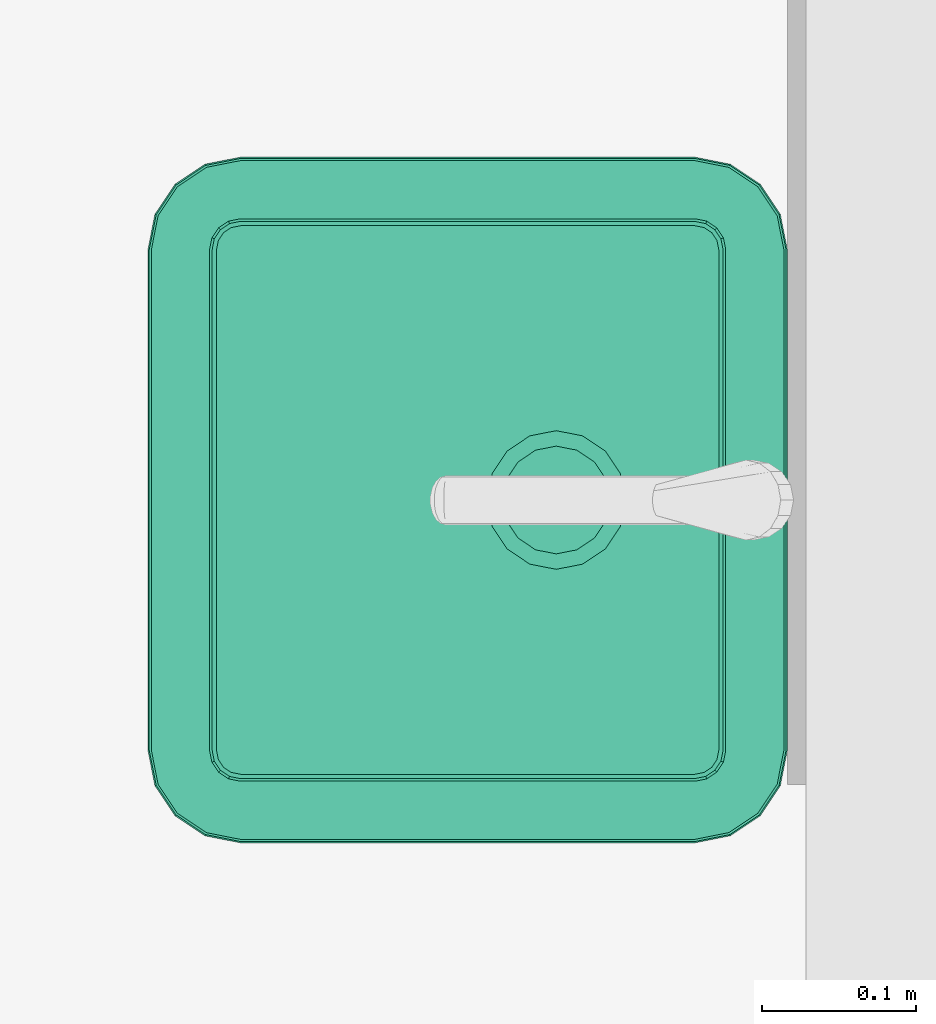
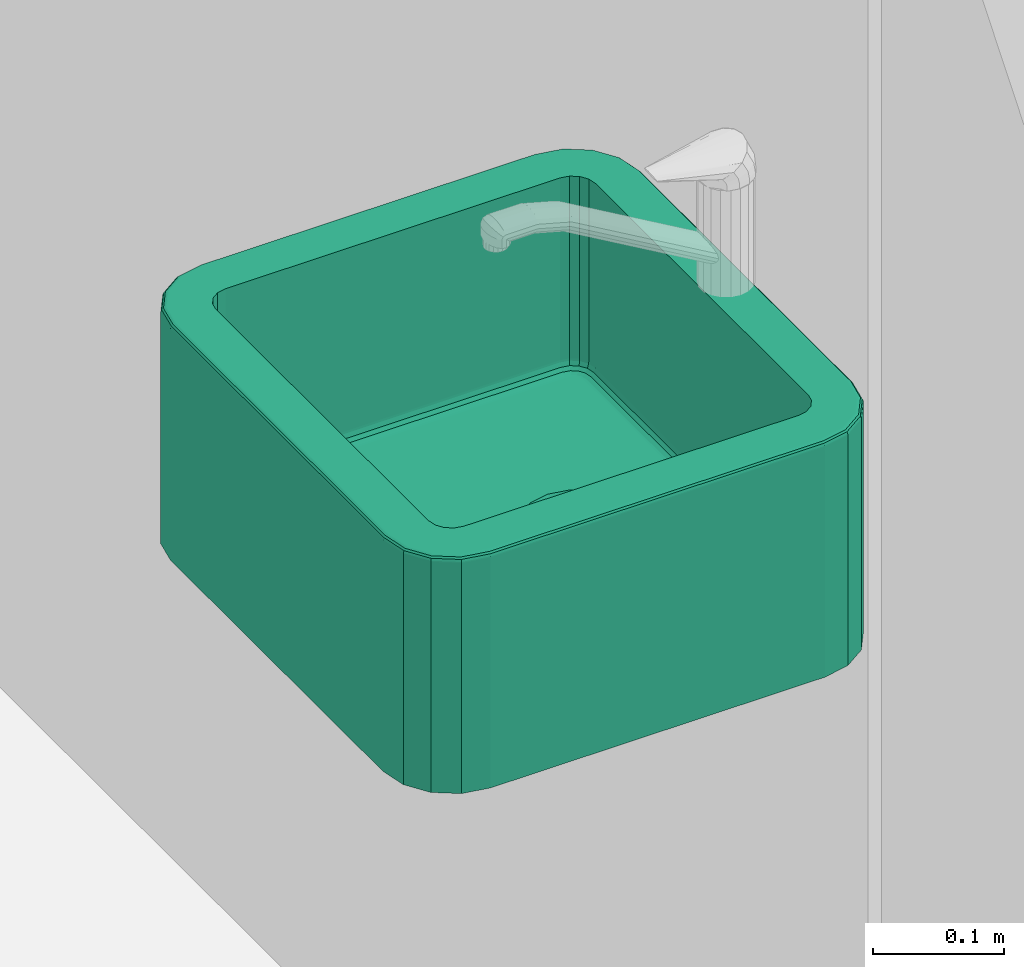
# One storey, part 115 of 194: 1 flow terminal.
"""IFC2X3 building model written with IfcOpenShell, lengths in millimetres."""

from ifc_helpers import new_model, entity, si_unit, converted_unit, derived_unit, money_unit, direction, frame, origin_with_axes, place, context, subcontext, project, spatial, faceted_brep, source, transform, mapped, type_object, element, save


model = new_model("IFC2X3")

# Units and contexts
model_context = context("Model", 3, precision=1e-05, world=origin_with_axes(), true_north=direction((0.0, 1.0)))
body_context = subcontext(model_context, "Body", "Model", "MODEL_VIEW")
ifc_project = project(units=[si_unit("LENGTHUNIT", "METRE", prefix="MILLI"), si_unit("AREAUNIT", "SQUARE_METRE"), si_unit("VOLUMEUNIT", "CUBIC_METRE"), converted_unit("PLANEANGLEUNIT", "DEGREE", entity("IfcPlaneAngleMeasure", 0.0174532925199), si_unit("PLANEANGLEUNIT", "RADIAN"), dimensions=[0, 0, 0, 0, 0, 0, 0]), si_unit("SOLIDANGLEUNIT", "STERADIAN"), money_unit("EUR"), converted_unit("TIMEUNIT", "Year", entity("IfcTimeMeasure", 31556926.0), si_unit("TIMEUNIT", "SECOND"), dimensions=[0, 0, 1, 0, 0, 0, 0]), si_unit("MASSUNIT", "GRAM", prefix="KILO"), si_unit("THERMODYNAMICTEMPERATUREUNIT", "DEGREE_CELSIUS"), si_unit("LUMINOUSINTENSITYUNIT", "LUMEN"), si_unit("ENERGYUNIT", "JOULE", prefix="MEGA"), derived_unit("THERMALCONDUCTANCEUNIT", [(si_unit("POWERUNIT", "WATT"), 1), (si_unit("LENGTHUNIT", "METRE"), -1), (si_unit("THERMODYNAMICTEMPERATUREUNIT", "KELVIN"), -1)]), derived_unit("SPECIFICHEATCAPACITYUNIT", [(si_unit("ENERGYUNIT", "JOULE"), 1), (si_unit("MASSUNIT", "GRAM", prefix="KILO"), -1), (si_unit("THERMODYNAMICTEMPERATUREUNIT", "KELVIN"), -1)]), derived_unit("MASSDENSITYUNIT", [(si_unit("MASSUNIT", "GRAM", prefix="KILO"), 1), (si_unit("VOLUMEUNIT", "CUBIC_METRE"), -1)])], contexts=[model_context])

# Site, building, storey
site_placement = place(None, origin_with_axes())
site = spatial("IfcSite", under=ifc_project, at=site_placement, Name="Site", CompositionType="ELEMENT")
building_placement = place(site_placement, origin_with_axes())
building = spatial("IfcBuilding", under=site, at=building_placement, Name="Building", CompositionType="ELEMENT")
storey_placement = place(building_placement, frame((0.0, 0.0, 3000.0), z_axis=(0.0, 0.0, 1.0), x_axis=(1.0, 0.0, 0.0)))
storey = spatial("IfcBuildingStorey", under=building, at=storey_placement, Name="2 KORRUS", CompositionType="ELEMENT", Elevation=3000.0)

# Flow terminal
sanitary_terminal_type = type_object("IfcSanitaryTerminalType", Name="Sink Belfast 22", PredefinedType="NOTDEFINED")
shared_shape = source(origin_with_axes(), body_context, "Body", "Brep", [
    faceted_brep([(-21.1783900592, 393.821609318, 899.999999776), (-38.9898958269, 405.72287775, 899.999999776), (-60.4924568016, 410.000002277, 899.999999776), (-222.499999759, 410.000002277, 899.999999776), (-384.507543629, 410.000002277, 899.999999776), (-406.010103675, 405.722877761, 899.999999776), (-423.82160946, 393.821609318, 899.999999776), (-435.72287713, 376.010103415, 899.999999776), (-440.000002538, 354.50754327, 899.999999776), (-440.000002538, 60.4924569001, 899.999999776), (-435.722877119, 38.9898958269, 899.999999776), (-423.821609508, 21.1783900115, 899.999999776), (-406.010103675, 9.27712238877, 899.999999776), (-384.507543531, 4.99999698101, 899.999999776), (-60.4924569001, 4.99999698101, 899.999999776), (-38.9898958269, 9.27712239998, 899.999999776), (-21.1783900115, 21.1783900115, 899.999999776), (-9.27712239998, 38.9898958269, 899.999999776), (-4.99999698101, 60.4924569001, 899.999999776), (-4.99999698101, 354.50754327, 899.999999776), (-9.27712238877, 376.010103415, 899.999999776), (-399.142135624, 369.142135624, 900.0), (-392.653668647, 373.47759065, 900.0), (-385.0, 375.0, 900.0), (-222.5, 375.0, 900.0), (-60.0, 375.0, 900.0), (-52.3463313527, 373.47759065, 900.0), (-45.8578643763, 369.142135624, 900.0), (-41.5224093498, 362.653668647, 900.0), (-40.0, 355.0, 900.0), (-40.0, 60.0, 900.0), (-41.5224093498, 52.3463313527, 900.0), (-45.8578643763, 45.8578643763, 900.0), (-52.3463313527, 41.5224093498, 900.0), (-60.0, 40.0, 900.0), (-385.0, 40.0, 900.0), (-392.653668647, 41.5224093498, 900.0), (-399.142135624, 45.8578643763, 900.0), (-403.47759065, 52.3463313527, 900.0), (-405.0, 60.0, 900.0), (-405.0, 355.0, 900.0), (-403.47759065, 362.653668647, 900.0), (-20.4751302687, 394.524869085, 899.903926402), (-38.6092943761, 406.641730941, 899.903926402), (-60.3963834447, 410.975451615, 899.903926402), (-222.499999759, 410.975451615, 899.903926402), (-384.60361699, 410.975451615, 899.903926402), (-406.390705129, 406.64173095, 899.903926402), (-424.52486925, 394.524869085, 899.903926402), (-436.641730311, 376.390704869, 899.903926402), (-440.975451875, 354.60361665, 899.903926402), (-440.975451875, 60.396383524, 899.903926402), (-436.641730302, 38.6092943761, 899.903926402), (-424.524869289, 20.4751302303, 899.903926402), (-406.390705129, 8.3582692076, 899.903926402), (-384.603616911, 4.02454764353, 899.903926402), (-60.396383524, 4.02454764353, 899.903926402), (-38.6092943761, 8.35826921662, 899.903926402), (-20.4751302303, 20.4751302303, 899.903926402), (-8.35826921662, 38.6092943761, 899.903926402), (-4.02454764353, 60.396383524, 899.903926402), (-4.02454764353, 354.60361665, 899.903926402), (-8.3582692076, 376.390704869, 899.903926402), (-399.142135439, 369.142135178, 730.0), (-392.653668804, 373.477590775, 730.0), (-385.000000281, 374.999999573, 730.0), (-222.499999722, 374.999999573, 730.0), (-60.0000000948, 374.999999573, 730.0), (-52.3463315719, 373.477590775, 730.0), (-45.8578640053, 369.142135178, 730.0), (-41.5224093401, 362.653668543, 730.0), (-39.9999996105, 355.00000002, 730.0), (-39.9999996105, 60.0000000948, 730.0), (-41.5224093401, 52.3463315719, 730.0), (-45.8578640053, 45.8578640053, 730.0), (-52.3463315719, 41.5224093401, 730.0), (-60.0000000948, 39.9999996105, 730.0), (-385.000000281, 39.9999996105, 730.0), (-392.653668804, 41.5224093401, 730.0), (-399.142135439, 45.8578640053, 730.0), (-403.477591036, 52.3463315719, 730.0), (-404.999999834, 60.0000000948, 730.0), (-404.999999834, 355.00000002, 730.0), (-403.477591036, 362.653668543, 730.0), (-19.175673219, 395.824326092, 899.157348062), (-37.9060332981, 408.339553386, 899.157348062), (-60.2188627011, 412.777850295, 899.157348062), (-222.499999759, 412.777850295, 899.157348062), (-384.781137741, 412.777850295, 899.157348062), (-407.093966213, 408.339553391, 899.157348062), (-425.8243263, 395.824326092, 899.157348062), (-438.339552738, 377.093965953, 899.157348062), (-442.777850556, 354.781137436, 899.157348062), (-442.777850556, 60.2188627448, 899.157348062), (-438.339552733, 37.9060332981, 899.157348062), (-425.824326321, 19.1756731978, 899.157348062), (-407.093966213, 6.66044678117, 899.157348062), (-384.781137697, 2.22214896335, 899.157348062), (-60.2188627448, 2.22214896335, 899.157348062), (-37.9060332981, 6.66044678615, 899.157348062), (-19.1756731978, 19.1756731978, 899.157348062), (-6.66044678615, 37.9060332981, 899.157348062), (-2.22214896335, 60.2188627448, 899.157348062), (-2.22214896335, 354.781137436, 899.157348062), (-6.66044678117, 377.093965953, 899.157348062), (-399.003605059, 369.003604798, 728.04909678), (-392.578696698, 373.296592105, 728.04909678), (-384.981075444, 374.807852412, 728.04909678), (-222.499999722, 374.807852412, 728.04909678), (-60.0189249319, 374.807852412, 728.04909678), (-52.4213036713, 373.296592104, 728.04909678), (-45.9963943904, 369.003604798, 728.04909678), (-41.7034080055, 362.578696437, 728.04909678), (-40.1921467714, 354.981075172, 728.04909678), (-40.1921467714, 60.0189249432, 728.04909678), (-41.7034080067, 52.4213036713, 728.04909678), (-45.9963943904, 45.9963943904, 728.04909678), (-52.4213036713, 41.7034080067, 728.04909678), (-60.0189249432, 40.1921467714, 728.04909678), (-384.981075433, 40.1921467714, 728.04909678), (-392.578696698, 41.7034080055, 728.04909678), (-399.003605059, 45.9963943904, 728.04909678), (-403.296592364, 52.4213036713, 728.04909678), (-404.807852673, 60.0189249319, 728.04909678), (-404.807852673, 354.981075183, 728.04909678), (-403.296592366, 362.578696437, 728.04909678), (-18.1811110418, 396.818888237, 897.777851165), (-37.3677801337, 409.639011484, 897.777851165), (-60.0829940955, 414.157347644, 897.777851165), (-222.499999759, 414.157347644, 897.777851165), (-384.917006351, 414.157347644, 897.777851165), (-407.632219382, 409.639011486, 897.777851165), (-426.818888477, 396.818888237, 897.777851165), (-439.639010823, 377.632219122, 897.777851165), (-444.157347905, 354.917006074, 897.777851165), (-444.157347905, 60.0829941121, 897.777851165), (-439.639010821, 37.3677801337, 897.777851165), (-426.818888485, 18.1811110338, 897.777851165), (-407.632219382, 5.36098869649, 897.777851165), (-384.917006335, 0.842651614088, 897.777851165), (-60.0829941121, 0.842651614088, 897.777851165), (-37.3677801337, 5.36098869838, 897.777851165), (-18.1811110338, 18.1811110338, 897.777851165), (-5.36098869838, 37.3677801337, 897.777851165), (-0.842651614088, 60.0829941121, 897.777851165), (-0.842651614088, 354.917006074, 897.777851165), (-5.36098869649, 377.632219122, 897.777851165), (-397.927098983, 367.927098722, 724.44429767), (-391.996095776, 371.890069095, 724.44429767), (-384.834012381, 373.314695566, 724.44429767), (-222.499999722, 373.314695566, 724.44429767), (-60.1659879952, 373.314695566, 724.44429767), (-53.0039045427, 371.890069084, 724.44429767), (-47.0729005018, 367.927098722, 724.44429767), (-43.1099309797, 361.996095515, 724.44429767), (-41.6853036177, 354.83401202, 724.44429767), (-41.6853036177, 60.1659880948, 724.44429767), (-43.1099309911, 53.0039045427, 724.44429767), (-47.0729005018, 47.0729005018, 724.44429767), (-53.0039045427, 43.1099309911, 724.44429767), (-60.1659880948, 41.6853036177, 724.44429767), (-384.834012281, 41.6853036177, 724.44429767), (-391.996095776, 43.1099309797, 724.44429767), (-397.927098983, 47.0729005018, 724.44429767), (-401.890069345, 53.0039045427, 724.44429767), (-403.314695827, 60.1659879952, 724.44429767), (-403.314695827, 354.83401212, 724.44429767), (-401.890069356, 361.996095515, 724.44429767), (-17.6428579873, 397.357141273, 895.97545161), (-37.0764796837, 410.342272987, 895.97545161), (-60.0094625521, 414.903926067, 895.97545161), (-222.499999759, 414.903926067, 895.97545161), (-384.990537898, 414.903926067, 895.97545161), (-407.923519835, 410.342272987, 895.97545161), (-427.357141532, 397.357141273, 895.97545161), (-440.342272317, 377.923519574, 895.97545161), (-444.903926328, 354.990537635, 895.97545161), (-444.903926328, 60.009462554, 895.97545161), (-440.342272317, 37.0764796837, 895.97545161), (-427.357141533, 17.6428579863, 895.97545161), (-407.923519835, 4.65772720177, 895.97545161), (-384.990537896, 0.0960731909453, 895.97545161), (-60.009462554, 0.0960731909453, 895.97545161), (-37.0764796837, 4.65772720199, 895.97545161), (-17.6428579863, 17.6428579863, 895.97545161), (-4.65772720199, 37.0764796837, 895.97545161), (-0.0960731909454, 60.009462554, 895.97545161), (-0.0960731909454, 354.990537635, 895.97545161), (-4.65772720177, 377.923519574, 895.97545161), (-395.937975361, 365.9379751, 721.685303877), (-390.919589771, 369.291153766, 721.685303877), (-384.562275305, 370.555701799, 721.685303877), (-222.499999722, 370.555701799, 721.685303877), (-60.437725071, 370.555701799, 721.685303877), (-54.0804104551, 369.291153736, 721.685303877), (-49.062024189, 365.9379751, 721.685303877), (-45.7088462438, 360.91958951, 721.685303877), (-44.4442973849, 354.562274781, 721.685303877), (-44.4442973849, 60.4377253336, 721.685303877), (-45.7088462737, 54.0804104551, 721.685303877), (-49.062024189, 49.062024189, 721.685303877), (-54.0804104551, 45.7088462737, 721.685303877), (-60.4377253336, 44.4442973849, 721.685303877), (-384.562275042, 44.4442973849, 721.685303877), (-390.919589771, 45.7088462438, 721.685303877), (-395.937975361, 49.062024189, 721.685303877), (-399.291153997, 54.0804104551, 721.685303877), (-400.55570206, 60.437725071, 721.685303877), (-400.55570206, 354.562275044, 721.685303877), (-399.291154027, 360.91958951, 721.685303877), (-17.5735927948, 397.426406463, 895.0), (-37.0389936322, 410.432772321, 895.0), (-60.000000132, 414.999999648, 895.0), (-222.499999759, 414.999999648, 895.0), (-385.000000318, 414.999999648, 895.0), (-407.961005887, 410.432772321, 895.0), (-427.426406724, 397.426406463, 895.0), (-440.432771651, 377.961005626, 895.0), (-444.999999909, 355.000000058, 895.0), (-444.999999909, 60.000000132, 895.0), (-440.432771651, 37.0389936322, 895.0), (-427.426406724, 17.5735927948, 895.0), (-407.961005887, 4.56722786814, 895.0), (-385.000000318, -3.89516419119e-07, 895.0), (-60.000000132, -3.89516419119e-07, 895.0), (-37.0389936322, 4.56722786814, 895.0), (-17.5735927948, 17.5735927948, 895.0), (-4.56722786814, 37.0389936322, 895.0), (3.89516363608e-07, 60.000000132, 895.0), (3.89516363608e-07, 355.000000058, 895.0), (-4.56722786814, 377.961005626, 895.0), (-393.339059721, 363.33905946, 720.192147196), (-389.513066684, 365.895506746, 720.192147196), (-384.207233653, 366.95090219, 720.192147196), (-222.499999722, 366.95090219, 720.192147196), (-60.7927667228, 366.95090219, 720.192147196), (-55.4869334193, 365.895506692, 720.192147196), (-51.6609399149, 363.33905946, 720.192147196), (-49.104493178, 359.513066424, 720.192147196), (-48.0490969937, 354.207232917, 720.192147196), (-48.0490969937, 60.7927671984, 720.192147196), (-49.1044932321, 55.4869334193, 720.192147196), (-51.6609399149, 51.6609399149, 720.192147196), (-55.4869334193, 49.1044932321, 720.192147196), (-60.7927671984, 48.0490969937, 720.192147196), (-384.207233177, 48.0490969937, 720.192147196), (-389.513066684, 49.104493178, 720.192147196), (-393.339059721, 51.6609399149, 720.192147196), (-395.895506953, 55.4869334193, 720.192147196), (-396.950902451, 60.7927667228, 720.192147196), (-396.950902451, 354.207233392, 720.192147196), (-395.895507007, 359.513066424, 720.192147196), (-17.5735931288, 397.426406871, 680.0), (-37.0389940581, 410.432771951, 680.0), (-60.0, 415.0, 680.0), (-222.5, 415.0, 680.0), (-385.0, 415.0, 680.0), (-407.961005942, 410.432771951, 680.0), (-427.426406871, 397.426406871, 680.0), (-440.432771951, 377.961005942, 680.0), (-445.0, 355.0, 680.0), (-445.0, 60.0, 680.0), (-440.432771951, 37.0389940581, 680.0), (-427.426406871, 17.5735931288, 680.0), (-407.961005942, 4.56722804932, 680.0), (-385.0, 0.0, 680.0), (-60.0, 0.0, 680.0), (-37.0389940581, 4.56722804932, 680.0), (-17.5735931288, 17.5735931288, 680.0), (-4.56722804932, 37.0389940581, 680.0), (0.0, 60.0, 680.0), (0.0, 355.0, 680.0), (-4.56722804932, 377.961005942, 680.0), (-391.932540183, 361.932539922, 720.000000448), (-388.751863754, 364.057800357, 720.000000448), (-384.01508697, 365.000003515, 720.000000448), (-222.499999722, 365.000003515, 720.000000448), (-60.9849134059, 365.000003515, 720.000000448), (-56.2481362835, 364.05780029, 720.000000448), (-53.0674594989, 361.932539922, 720.000000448), (-50.9421995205, 358.751863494, 720.000000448), (-49.9999956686, 354.015086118, 720.000000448), (-49.9999956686, 60.9849139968, 720.000000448), (-50.9421995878, 56.2481362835, 720.000000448), (-53.0674594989, 53.0674594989, 720.000000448), (-56.2481362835, 50.9421995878, 720.000000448), (-60.9849139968, 49.9999956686, 720.000000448), (-384.015086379, 49.9999956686, 720.000000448), (-388.751863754, 50.9421995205, 720.000000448), (-391.932540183, 53.0674594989, 720.000000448), (-394.057800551, 56.2481362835, 720.000000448), (-395.000003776, 60.9849134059, 720.000000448), (-395.000003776, 354.015086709, 720.000000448), (-394.057800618, 358.751863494, 720.000000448), (-267.5, 265.0, 720.0), (-264.074578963, 282.220754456, 720.0), (-254.319805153, 296.819805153, 720.0), (-239.720754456, 306.574578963, 720.0), (-222.5, 310.0, 720.0), (-205.279245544, 306.574578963, 720.0), (-190.680194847, 296.819805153, 720.0), (-180.925421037, 282.220754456, 720.0), (-177.5, 265.0, 720.0), (-180.925421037, 247.779245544, 720.0), (-190.680194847, 233.180194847, 720.0), (-205.279245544, 223.425421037, 720.0), (-222.5, 220.0, 720.0), (-239.720754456, 223.425421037, 720.0), (-254.319805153, 233.180194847, 720.0), (-264.074578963, 247.779245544, 720.0), (-257.5, 265.0, 710.0), (-254.835783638, 278.393920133, 710.0), (-247.248737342, 289.748737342, 710.0), (-235.893920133, 297.335783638, 710.0), (-222.5, 300.0, 710.0), (-209.106079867, 297.335783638, 710.0), (-197.751262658, 289.748737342, 710.0), (-190.164216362, 278.393920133, 710.0), (-187.5, 265.0, 710.0), (-190.164216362, 251.606079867, 710.0), (-197.751262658, 240.251262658, 710.0), (-209.106079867, 232.664216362, 710.0), (-222.5, 230.0, 710.0), (-235.893920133, 232.664216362, 710.0), (-247.248737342, 240.251262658, 710.0), (-254.835783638, 251.606079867, 710.0)], [[[0, 1, 2, 3, 4, 5, 6, 7, 8, 9, 10, 11, 12, 13, 14, 15, 16, 17, 18, 19, 20], [21, 22, 23, 24, 25, 26, 27, 28, 29, 30, 31, 32, 33, 34, 35, 36, 37, 38, 39, 40, 41]], [[1, 0, 42, 43]], [[2, 1, 43, 44]], [[3, 2, 44, 45]], [[4, 3, 45, 46]], [[5, 4, 46, 47]], [[6, 5, 47, 48]], [[7, 6, 48, 49]], [[8, 7, 49, 50]], [[9, 8, 50, 51]], [[10, 9, 51, 52]], [[11, 10, 52, 53]], [[12, 11, 53, 54]], [[13, 12, 54, 55]], [[14, 13, 55, 56]], [[15, 14, 56, 57]], [[16, 15, 57, 58]], [[17, 16, 58, 59]], [[18, 17, 59, 60]], [[19, 18, 60, 61]], [[20, 19, 61, 62]], [[0, 20, 62, 42]], [[21, 63, 64, 22]], [[22, 64, 65, 23]], [[23, 65, 66, 24]], [[24, 66, 67, 25]], [[25, 67, 68, 26]], [[26, 68, 69, 27]], [[27, 69, 70, 28]], [[28, 70, 71, 29]], [[29, 71, 72, 30]], [[30, 72, 73, 31]], [[31, 73, 74, 32]], [[32, 74, 75, 33]], [[33, 75, 76, 34]], [[34, 76, 77, 35]], [[35, 77, 78, 36]], [[36, 78, 79, 37]], [[37, 79, 80, 38]], [[38, 80, 81, 39]], [[39, 81, 82, 40]], [[40, 82, 83, 41]], [[41, 83, 63, 21]], [[43, 42, 84, 85]], [[44, 43, 85, 86]], [[45, 44, 86, 87]], [[46, 45, 87, 88]], [[47, 46, 88, 89]], [[48, 47, 89, 90]], [[49, 48, 90, 91]], [[50, 49, 91, 92]], [[51, 50, 92, 93]], [[52, 51, 93, 94]], [[53, 52, 94, 95]], [[54, 53, 95, 96]], [[55, 54, 96, 97]], [[56, 55, 97, 98]], [[57, 56, 98, 99]], [[58, 57, 99, 100]], [[59, 58, 100, 101]], [[60, 59, 101, 102]], [[61, 60, 102, 103]], [[62, 61, 103, 104]], [[42, 62, 104, 84]], [[63, 105, 106, 64]], [[64, 106, 107, 65]], [[65, 107, 108, 66]], [[66, 108, 109, 67]], [[67, 109, 110, 68]], [[68, 110, 111, 69]], [[69, 111, 112, 70]], [[70, 112, 113, 71]], [[71, 113, 114, 72]], [[72, 114, 115, 73]], [[73, 115, 116, 74]], [[74, 116, 117, 75]], [[75, 117, 118, 76]], [[76, 118, 119, 77]], [[77, 119, 120, 78]], [[78, 120, 121, 79]], [[79, 121, 122, 80]], [[80, 122, 123, 81]], [[81, 123, 124, 82]], [[82, 124, 125, 83]], [[83, 125, 105, 63]], [[85, 84, 126, 127]], [[86, 85, 127, 128]], [[87, 86, 128, 129]], [[88, 87, 129, 130]], [[89, 88, 130, 131]], [[90, 89, 131, 132]], [[91, 90, 132, 133]], [[92, 91, 133, 134]], [[93, 92, 134, 135]], [[94, 93, 135, 136]], [[95, 94, 136, 137]], [[96, 95, 137, 138]], [[97, 96, 138, 139]], [[98, 97, 139, 140]], [[99, 98, 140, 141]], [[100, 99, 141, 142]], [[101, 100, 142, 143]], [[102, 101, 143, 144]], [[103, 102, 144, 145]], [[104, 103, 145, 146]], [[84, 104, 146, 126]], [[105, 147, 148, 106]], [[106, 148, 149, 107]], [[107, 149, 150, 108]], [[108, 150, 151, 109]], [[109, 151, 152, 110]], [[110, 152, 153, 111]], [[111, 153, 154, 112]], [[112, 154, 155, 113]], [[113, 155, 156, 114]], [[114, 156, 157, 115]], [[115, 157, 158, 116]], [[116, 158, 159, 117]], [[117, 159, 160, 118]], [[118, 160, 161, 119]], [[119, 161, 162, 120]], [[120, 162, 163, 121]], [[121, 163, 164, 122]], [[122, 164, 165, 123]], [[123, 165, 166, 124]], [[124, 166, 167, 125]], [[125, 167, 147, 105]], [[127, 126, 168, 169]], [[128, 127, 169, 170]], [[129, 128, 170, 171]], [[130, 129, 171, 172]], [[131, 130, 172, 173]], [[132, 131, 173, 174]], [[133, 132, 174, 175]], [[134, 133, 175, 176]], [[135, 134, 176, 177]], [[136, 135, 177, 178]], [[137, 136, 178, 179]], [[138, 137, 179, 180]], [[139, 138, 180, 181]], [[140, 139, 181, 182]], [[141, 140, 182, 183]], [[142, 141, 183, 184]], [[143, 142, 184, 185]], [[144, 143, 185, 186]], [[145, 144, 186, 187]], [[146, 145, 187, 188]], [[126, 146, 188, 168]], [[147, 189, 190, 148]], [[148, 190, 191, 149]], [[149, 191, 192, 150]], [[150, 192, 193, 151]], [[151, 193, 194, 152]], [[152, 194, 195, 153]], [[153, 195, 196, 154]], [[154, 196, 197, 155]], [[155, 197, 198, 156]], [[156, 198, 199, 157]], [[157, 199, 200, 158]], [[158, 200, 201, 159]], [[159, 201, 202, 160]], [[160, 202, 203, 161]], [[161, 203, 204, 162]], [[162, 204, 205, 163]], [[163, 205, 206, 164]], [[164, 206, 207, 165]], [[165, 207, 208, 166]], [[166, 208, 209, 167]], [[167, 209, 189, 147]], [[169, 168, 210, 211]], [[170, 169, 211, 212]], [[171, 170, 212, 213]], [[172, 171, 213, 214]], [[173, 172, 214, 215]], [[174, 173, 215, 216]], [[175, 174, 216, 217]], [[176, 175, 217, 218]], [[177, 176, 218, 219]], [[178, 177, 219, 220]], [[179, 178, 220, 221]], [[180, 179, 221, 222]], [[181, 180, 222, 223]], [[182, 181, 223, 224]], [[183, 182, 224, 225]], [[184, 183, 225, 226]], [[185, 184, 226, 227]], [[186, 185, 227, 228]], [[187, 186, 228, 229]], [[188, 187, 229, 230]], [[168, 188, 230, 210]], [[189, 231, 232, 190]], [[190, 232, 233, 191]], [[191, 233, 234, 192]], [[192, 234, 235, 193]], [[193, 235, 236, 194]], [[194, 236, 237, 195]], [[195, 237, 238, 196]], [[196, 238, 239, 197]], [[197, 239, 240, 198]], [[198, 240, 241, 199]], [[199, 241, 242, 200]], [[200, 242, 243, 201]], [[201, 243, 244, 202]], [[202, 244, 245, 203]], [[203, 245, 246, 204]], [[204, 246, 247, 205]], [[205, 247, 248, 206]], [[206, 248, 249, 207]], [[207, 249, 250, 208]], [[208, 250, 251, 209]], [[209, 251, 231, 189]], [[211, 210, 252, 253]], [[212, 211, 253, 254]], [[213, 212, 254, 255]], [[214, 213, 255, 256]], [[215, 214, 256, 257]], [[216, 215, 257, 258]], [[217, 216, 258, 259]], [[218, 217, 259, 260]], [[219, 218, 260, 261]], [[220, 219, 261, 262]], [[221, 220, 262, 263]], [[222, 221, 263, 264]], [[223, 222, 264, 265]], [[224, 223, 265, 266]], [[225, 224, 266, 267]], [[226, 225, 267, 268]], [[227, 226, 268, 269]], [[228, 227, 269, 270]], [[229, 228, 270, 271]], [[230, 229, 271, 272]], [[210, 230, 272, 252]], [[231, 273, 274, 232]], [[232, 274, 275, 233]], [[233, 275, 276, 234]], [[234, 276, 277, 235]], [[235, 277, 278, 236]], [[236, 278, 279, 237]], [[237, 279, 280, 238]], [[238, 280, 281, 239]], [[239, 281, 282, 240]], [[240, 282, 283, 241]], [[241, 283, 284, 242]], [[242, 284, 285, 243]], [[243, 285, 286, 244]], [[244, 286, 287, 245]], [[245, 287, 288, 246]], [[246, 288, 289, 247]], [[247, 289, 290, 248]], [[248, 290, 291, 249]], [[249, 291, 292, 250]], [[250, 292, 293, 251]], [[251, 293, 273, 231]], [[268, 267, 266, 265, 264, 263, 262, 261, 260, 259, 258, 257, 256, 255, 254, 253, 252, 272, 271, 270, 269]], [[280, 279, 278, 277, 276, 275, 274, 273, 293, 292, 291, 290, 289, 288, 287, 286, 285, 284, 283, 282, 281], [294, 295, 296, 297, 298, 299, 300, 301, 302, 303, 304, 305, 306, 307, 308, 309]], [[294, 310, 311, 295]], [[295, 311, 312, 296]], [[296, 312, 313, 297]], [[297, 313, 314, 298]], [[298, 314, 315, 299]], [[299, 315, 316, 300]], [[300, 316, 317, 301]], [[301, 317, 318, 302]], [[302, 318, 319, 303]], [[303, 319, 320, 304]], [[304, 320, 321, 305]], [[305, 321, 322, 306]], [[306, 322, 323, 307]], [[307, 323, 324, 308]], [[308, 324, 325, 309]], [[309, 325, 310, 294]], [[315, 314, 313, 312, 311, 310, 325, 324, 323, 322, 321, 320, 319, 318, 317, 316]]]),
    faceted_brep([(-254.835783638, 251.606079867, 710.0), (-257.5, 265.0, 710.0), (-254.835783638, 278.393920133, 710.0), (-247.248737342, 289.748737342, 710.0), (-235.893920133, 297.335783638, 710.0), (-222.5, 300.0, 710.0), (-209.106079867, 297.335783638, 710.0), (-197.751262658, 289.748737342, 710.0), (-190.164216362, 278.393920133, 710.0), (-187.5, 265.0, 710.0), (-190.164216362, 251.606079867, 710.0), (-197.751262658, 240.251262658, 710.0), (-209.106079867, 232.664216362, 710.0), (-222.5, 230.0, 710.0), (-235.893920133, 232.664216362, 710.0), (-247.248737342, 240.251262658, 710.0), (-254.835783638, 251.606079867, 720.0), (-257.5, 265.0, 720.0), (-254.835783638, 278.393920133, 720.0), (-247.248737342, 289.748737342, 720.0), (-235.893920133, 297.335783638, 720.0), (-222.5, 300.0, 720.0), (-209.106079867, 297.335783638, 720.0), (-197.751262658, 289.748737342, 720.0), (-190.164216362, 278.393920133, 720.0), (-187.5, 265.0, 720.0), (-190.164216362, 251.606079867, 720.0), (-197.751262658, 240.251262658, 720.0), (-209.106079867, 232.664216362, 720.0), (-222.5, 230.0, 720.0), (-235.893920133, 232.664216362, 720.0), (-247.248737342, 240.251262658, 720.0)], [[[0, 1, 2, 3, 4, 5, 6, 7, 8, 9, 10, 11, 12, 13, 14, 15]], [[0, 16, 17, 1]], [[1, 17, 18, 2]], [[2, 18, 19, 3]], [[3, 19, 20, 4]], [[4, 20, 21, 5]], [[5, 21, 22, 6]], [[6, 22, 23, 7]], [[7, 23, 24, 8]], [[8, 24, 25, 9]], [[9, 25, 26, 10]], [[10, 26, 27, 11]], [[11, 27, 28, 12]], [[12, 28, 29, 13]], [[13, 29, 30, 14]], [[14, 30, 31, 15]], [[15, 31, 16, 0]], [[16, 31, 30, 29, 28, 27, 26, 25, 24, 23, 22, 21, 20, 19, 18, 17]]]),
])
flow_terminal_placement = place(storey_placement, frame((36309.8833089, 5269.78054709, 177.752789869), z_axis=(0.0, 0.0, 1.0), x_axis=(0.0, -1.0, 0.0)))
element("IfcFlowTerminal", 1, at=flow_terminal_placement, inside=storey, type_object=sanitary_terminal_type, Name="Valamu", context=body_context, shape_type="MappedRepresentation", body=[
    mapped(shared_shape, transform((0.0, 0.0, 0.0))),
])

save(model, "model.ifc")
